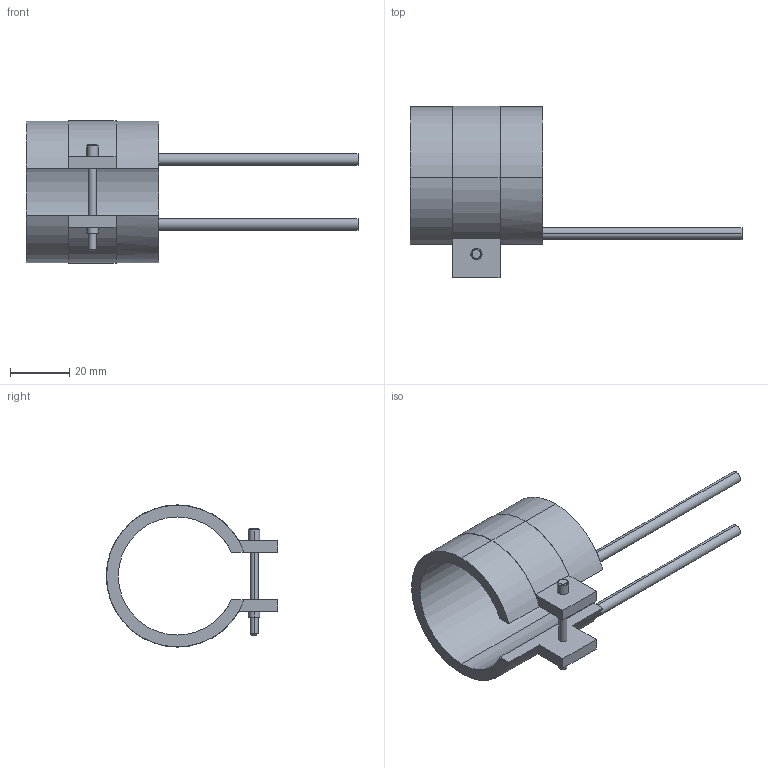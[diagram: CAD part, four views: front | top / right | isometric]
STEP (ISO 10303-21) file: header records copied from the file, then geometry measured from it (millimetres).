
FILE_DESCRIPTION(('CATIA V5 STEP Exchange'),'2;1');
FILE_NAME('C:\Users\Utente\Desktop\IO LAVORO\3D X SITO CF\X SITO\PLASTICA\RF2\14040045.stp','2021-03-31T11:43:51+00:00',('none'),('none'),'CATIA Version 5 Release 20 GA (IN-10)','CATIA V5 STEP AP203','none');
FILE_SCHEMA(('CONFIG_CONTROL_DESIGN'));
Length unit declared in the file: millimetre
Products named in the file (1): 14040045
Bounding box: 112.5 x 58.1 x 48.2 mm (x, y, z)
Volume: 25585.1 mm3; surface area: 15264.6 mm2
Topology: 1 solids, 1 shells, 45 faces, 116 edges, 76 vertices
Faces by surface type: cylinder 24, plane 17, cone 4
Entity records: 1394 total; most frequent: CARTESIAN_POINT 268, ORIENTED_EDGE 232, DIRECTION 196, EDGE_CURVE 116, AXIS2_PLACEMENT_3D 104, VERTEX_POINT 76, CIRCLE 62, VECTOR 52
